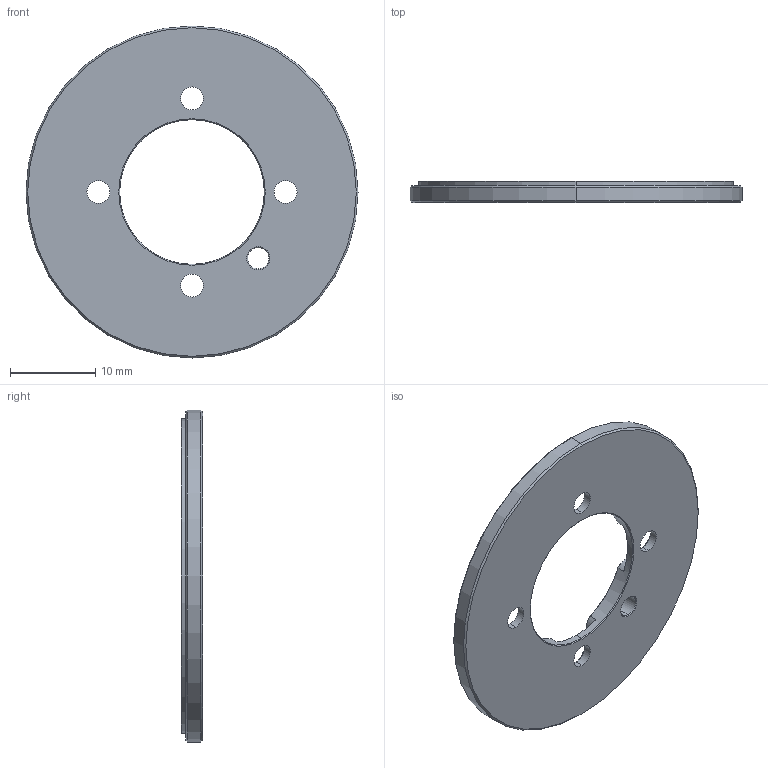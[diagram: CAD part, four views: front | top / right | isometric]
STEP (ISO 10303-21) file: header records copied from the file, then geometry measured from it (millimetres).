
FILE_DESCRIPTION (( 'STEP AP214' ), '1' );
FILE_NAME ('GRR-055-A11-ST.STEP', '2023-03-27T14:14:01', ( '' ), ( '' ), 'SwSTEP 2.0', 'SolidWorks 2021', '' );
FILE_SCHEMA (( 'AUTOMOTIVE_DESIGN' ));
Length unit declared in the file: millimetre
Products named in the file (1): GRR-055-A11-ST
Bounding box: 39 x 2.5 x 39 mm (x, y, z)
Volume: 2001.4 mm3; surface area: 3291.8 mm2
Topology: 2 solids, 2 shells, 88 faces, 211 edges, 129 vertices
Faces by surface type: cylinder 35, cone 27, plane 26
Entity records: 3607 total; most frequent: DIRECTION 486, CARTESIAN_POINT 453, ORIENTED_EDGE 422, EDGE_CURVE 211, AXIS2_PLACEMENT_3D 194, VERTEX_POINT 129, CIRCLE 105, EDGE_LOOP 104
